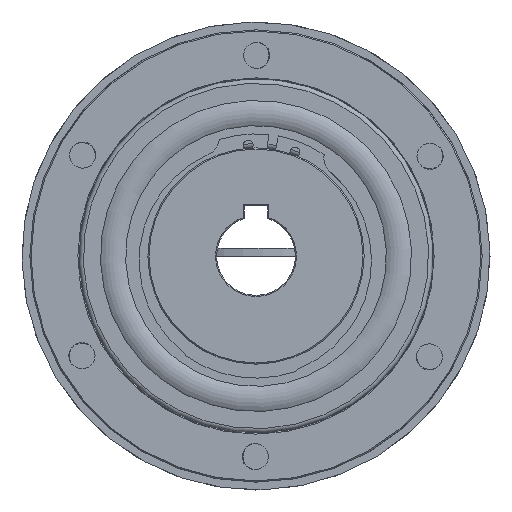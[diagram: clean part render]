
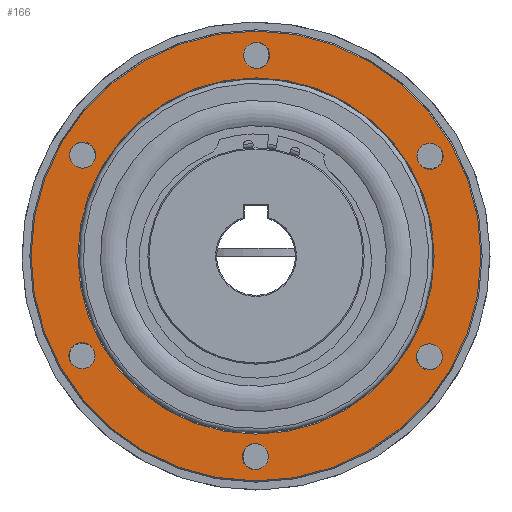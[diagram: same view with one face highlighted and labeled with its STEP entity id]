
A CAD part, left-side view. The second image highlights one B-rep face of the part: STEP entity #166.
In plain terms, the highlighted planar face has unit normal (-1, 0, 0).
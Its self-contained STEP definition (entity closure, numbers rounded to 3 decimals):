
#166 = ADVANCED_FACE( '', ( #298, #299, #300, #301, #302, #303, #304, #305 ), #306, .F. );
#298 = FACE_OUTER_BOUND( '', #444, .T. );
#299 = FACE_BOUND( '', #445, .T. );
#300 = FACE_BOUND( '', #446, .T. );
#301 = FACE_BOUND( '', #447, .T. );
#302 = FACE_BOUND( '', #448, .T. );
#303 = FACE_BOUND( '', #449, .T. );
#304 = FACE_BOUND( '', #450, .T. );
#305 = FACE_BOUND( '', #451, .T. );
#306 = PLANE( '', #452 );
#444 = EDGE_LOOP( '', ( #694 ) );
#445 = EDGE_LOOP( '', ( #695 ) );
#446 = EDGE_LOOP( '', ( #696 ) );
#447 = EDGE_LOOP( '', ( #697 ) );
#448 = EDGE_LOOP( '', ( #698 ) );
#449 = EDGE_LOOP( '', ( #699 ) );
#450 = EDGE_LOOP( '', ( #700 ) );
#451 = EDGE_LOOP( '', ( #701 ) );
#452 = AXIS2_PLACEMENT_3D( '', #702, #703, #704 );
#694 = ORIENTED_EDGE( '', *, *, #982, .T. );
#695 = ORIENTED_EDGE( '', *, *, #999, .T. );
#696 = ORIENTED_EDGE( '', *, *, #992, .T. );
#697 = ORIENTED_EDGE( '', *, *, #987, .T. );
#698 = ORIENTED_EDGE( '', *, *, #973, .T. );
#699 = ORIENTED_EDGE( '', *, *, #996, .T. );
#700 = ORIENTED_EDGE( '', *, *, #1002, .T. );
#701 = ORIENTED_EDGE( '', *, *, #1004, .T. );
#702 = CARTESIAN_POINT( '', ( -20.8, 57.5, 0. ) );
#703 = DIRECTION( '', ( 1., 0., 0. ) );
#704 = DIRECTION( '', ( 0., 1., 0. ) );
#973 = EDGE_CURVE( '', #1265, #1265, #1266, .T. );
#982 = EDGE_CURVE( '', #1280, #1280, #1281, .T. );
#987 = EDGE_CURVE( '', #1287, #1287, #1288, .T. );
#992 = EDGE_CURVE( '', #1295, #1295, #1296, .T. );
#996 = EDGE_CURVE( '', #1301, #1301, #1302, .T. );
#999 = EDGE_CURVE( '', #1305, #1305, #1306, .T. );
#1002 = EDGE_CURVE( '', #1309, #1309, #1310, .T. );
#1004 = EDGE_CURVE( '', #1312, #1312, #1313, .T. );
#1265 = VERTEX_POINT( '', #1846 );
#1266 = CIRCLE( '', #1847, 3.324 );
#1280 = VERTEX_POINT( '', #1861 );
#1281 = CIRCLE( '', #1862, 57.2 );
#1287 = VERTEX_POINT( '', #1868 );
#1288 = CIRCLE( '', #1869, 3.324 );
#1295 = VERTEX_POINT( '', #1876 );
#1296 = CIRCLE( '', #1877, 3.324 );
#1301 = VERTEX_POINT( '', #1882 );
#1302 = CIRCLE( '', #1883, 3.324 );
#1305 = VERTEX_POINT( '', #1886 );
#1306 = CIRCLE( '', #1887, 45.3 );
#1309 = VERTEX_POINT( '', #1890 );
#1310 = CIRCLE( '', #1891, 3.324 );
#1312 = VERTEX_POINT( '', #1893 );
#1313 = CIRCLE( '', #1894, 3.324 );
#1846 = CARTESIAN_POINT( '', ( -20.8, 0., -54.324 ) );
#1847 = AXIS2_PLACEMENT_3D( '', #2043, #2044, #2045 );
#1861 = CARTESIAN_POINT( '', ( -20.8, 0., -57.2 ) );
#1862 = AXIS2_PLACEMENT_3D( '', #2061, #2062, #2063 );
#1868 = CARTESIAN_POINT( '', ( -20.8, 47.046, -27.162 ) );
#1869 = AXIS2_PLACEMENT_3D( '', #2067, #2068, #2069 );
#1876 = CARTESIAN_POINT( '', ( -20.8, 47.046, 27.162 ) );
#1877 = AXIS2_PLACEMENT_3D( '', #2076, #2077, #2078 );
#1882 = CARTESIAN_POINT( '', ( -20.8, -47.046, -27.162 ) );
#1883 = AXIS2_PLACEMENT_3D( '', #2082, #2083, #2084 );
#1886 = CARTESIAN_POINT( '', ( -20.8, 0., -45.3 ) );
#1887 = AXIS2_PLACEMENT_3D( '', #2085, #2086, #2087 );
#1890 = CARTESIAN_POINT( '', ( -20.8, -47.046, 27.162 ) );
#1891 = AXIS2_PLACEMENT_3D( '', #2088, #2089, #2090 );
#1893 = CARTESIAN_POINT( '', ( -20.8, 0., 54.324 ) );
#1894 = AXIS2_PLACEMENT_3D( '', #2091, #2092, #2093 );
#2043 = CARTESIAN_POINT( '', ( -20.8, 0., -51. ) );
#2044 = DIRECTION( '', ( 1., 0., 0. ) );
#2045 = DIRECTION( '', ( 0., 0., -1. ) );
#2061 = CARTESIAN_POINT( '', ( -20.8, 0., 0. ) );
#2062 = DIRECTION( '', ( -1., 0., 0. ) );
#2063 = DIRECTION( '', ( 0., 0., -1. ) );
#2067 = CARTESIAN_POINT( '', ( -20.8, 44.167, -25.5 ) );
#2068 = DIRECTION( '', ( 1., 0., 0. ) );
#2069 = DIRECTION( '', ( 0., 0.866, -0.5 ) );
#2076 = CARTESIAN_POINT( '', ( -20.8, 44.167, 25.5 ) );
#2077 = DIRECTION( '', ( 1., 0., 0. ) );
#2078 = DIRECTION( '', ( 0., 0.866, 0.5 ) );
#2082 = CARTESIAN_POINT( '', ( -20.8, -44.167, -25.5 ) );
#2083 = DIRECTION( '', ( 1., 0., 0. ) );
#2084 = DIRECTION( '', ( 0., -0.866, -0.5 ) );
#2085 = CARTESIAN_POINT( '', ( -20.8, 0., 0. ) );
#2086 = DIRECTION( '', ( 1., 0., 0. ) );
#2087 = DIRECTION( '', ( 0., 0., -1. ) );
#2088 = CARTESIAN_POINT( '', ( -20.8, -44.167, 25.5 ) );
#2089 = DIRECTION( '', ( 1., 0., 0. ) );
#2090 = DIRECTION( '', ( 0., -0.866, 0.5 ) );
#2091 = CARTESIAN_POINT( '', ( -20.8, 0., 51. ) );
#2092 = DIRECTION( '', ( 1., 0., 0. ) );
#2093 = DIRECTION( '', ( 0., 0., 1. ) );
